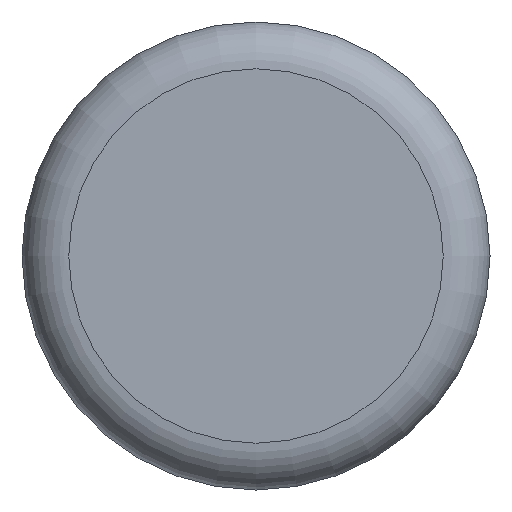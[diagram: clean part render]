
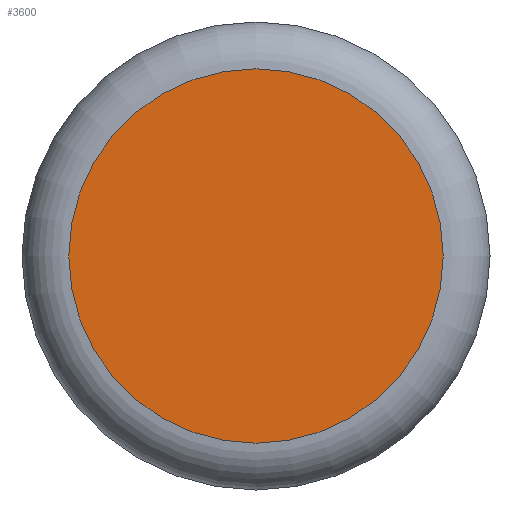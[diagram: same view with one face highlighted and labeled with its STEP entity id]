
A CAD part, front view. The second image highlights one B-rep face of the part: STEP entity #3600.
In plain terms, the highlighted planar face has unit normal (0, -1, 0).
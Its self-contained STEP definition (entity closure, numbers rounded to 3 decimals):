
#139=PLANE('',#3821);
#419=FACE_OUTER_BOUND('',#636,.T.);
#636=EDGE_LOOP('',(#3364));
#903=CIRCLE('',#3820,4.);
#1779=VERTEX_POINT('',#7712);
#2309=EDGE_CURVE('',#1779,#1779,#903,.T.);
#3364=ORIENTED_EDGE('',*,*,#2309,.F.);
#3600=ADVANCED_FACE('',(#419),#139,.F.);
#3820=AXIS2_PLACEMENT_3D('',#7713,#4512,#4513);
#3821=AXIS2_PLACEMENT_3D('',#7714,#4514,#4515);
#4512=DIRECTION('center_axis',(0.,1.,0.));
#4513=DIRECTION('ref_axis',(1.,0.,0.));
#4514=DIRECTION('center_axis',(0.,1.,0.));
#4515=DIRECTION('ref_axis',(0.,0.,1.));
#7712=CARTESIAN_POINT('',(-4.,-2.,0.));
#7713=CARTESIAN_POINT('Origin',(0.,-2.,0.));
#7714=CARTESIAN_POINT('Origin',(0.,-2.,0.));
